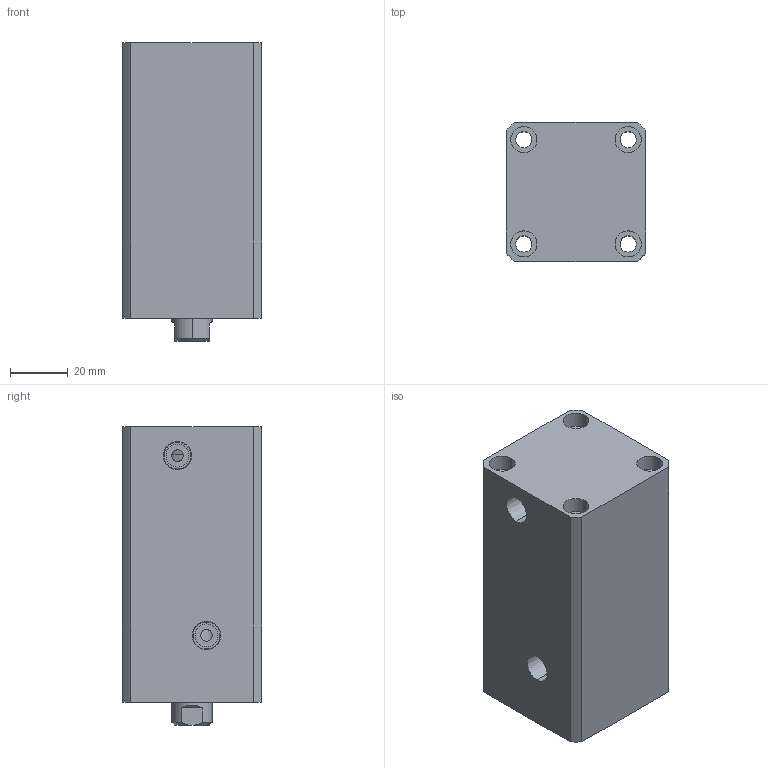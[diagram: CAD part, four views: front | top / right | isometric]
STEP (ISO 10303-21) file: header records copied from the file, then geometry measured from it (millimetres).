
FILE_DESCRIPTION (( 'STEP AP214' ), '1' );
FILE_NAME ('chtb-sd25x50n_asm.STEP', '2018-05-22T12:32:18', ( 'Windows' ), ( 'Microsoft' ), 'SwSTEP 2.0', 'SolidWorks 2015', '' );
FILE_SCHEMA (( 'AUTOMOTIVE_DESIGN' ));
Length unit declared in the file: millimetre
Products named in the file (4): chtb-sd25x50n_asm; CHTB-SD25X50NHSG; CHTB-SD25X50NBT; CHTB-25QG
Assembly tree (3 placements, depth 2):
  chtb-sd25x50n_asm
    CHTB-25QG
    CHTB-SD25X50NBT
    CHTB-SD25X50NHSG
Bounding box: 48 x 48 x 103 mm (x, y, z)
Volume: 186946.7 mm3; surface area: 48666.2 mm2
Topology: 3 solids, 3 shells, 144 faces, 377 edges, 257 vertices
Faces by surface type: cylinder 85, plane 36, cone 13, bspline 10
Entity records: 7940 total; most frequent: CARTESIAN_POINT 4299, ORIENTED_EDGE 742, DIRECTION 671, EDGE_CURVE 371, AXIS2_PLACEMENT_3D 278, VERTEX_POINT 257, EDGE_LOOP 182, ADVANCED_FACE 144
